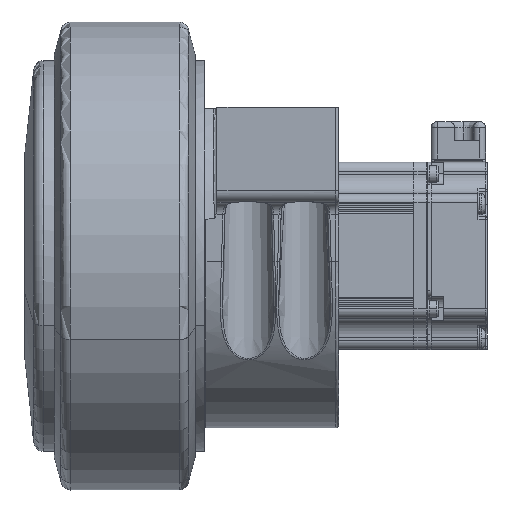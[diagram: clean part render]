
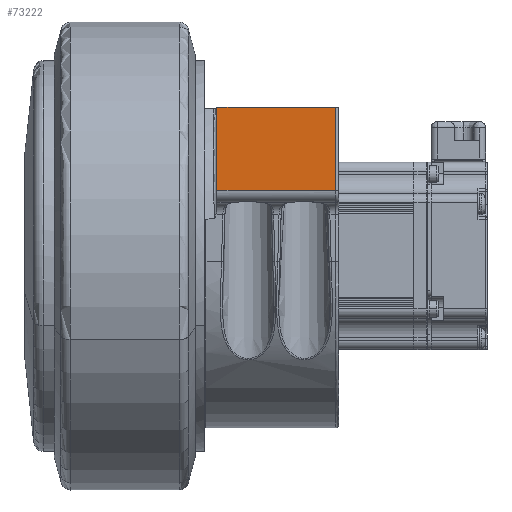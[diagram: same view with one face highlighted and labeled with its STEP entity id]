
A CAD part, top view. The second image highlights one B-rep face of the part: STEP entity #73222.
In plain terms, the highlighted planar face has unit normal (0, -0.026, 1).
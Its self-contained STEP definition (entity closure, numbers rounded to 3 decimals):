
#2653 = ORIENTED_EDGE ( 'NONE', *, *, #73305, .F. ) ;
#3748 = CARTESIAN_POINT ( 'NONE',  ( 31.662, 46.348, 241.571 ) ) ;
#5579 = CARTESIAN_POINT ( 'NONE',  ( 6.329, 46.348, 241.571 ) ) ;
#6153 = EDGE_CURVE ( 'NONE', #34607, #58737, #54318, .T. ) ;
#9213 = CARTESIAN_POINT ( 'NONE',  ( 6.329, 19.714, 240.874 ) ) ;
#12929 = EDGE_LOOP ( 'NONE', ( #26608, #2653, #72642, #51949 ) ) ;
#13268 = CARTESIAN_POINT ( 'NONE',  ( 32.662, 19.714, 240.874 ) ) ;
#14331 = B_SPLINE_CURVE_WITH_KNOTS ( 'NONE', 3,
 ( #3748, #22245, #53706, #28709 ),
 .UNSPECIFIED., .F., .F.,
 ( 4, 4 ),
 ( 0., 1. ),
 .UNSPECIFIED. ) ;
#14449 = CARTESIAN_POINT ( 'NONE',  ( -6.338, 19.714, 240.874 ) ) ;
#15605 = CARTESIAN_POINT ( 'NONE',  ( -6.338, 46.348, 241.571 ) ) ;
#18146 = CARTESIAN_POINT ( 'NONE',  ( 31.662, 19.714, 240.874 ) ) ;
#22245 = CARTESIAN_POINT ( 'NONE',  ( 31.662, 37.47, 241.339 ) ) ;
#26608 = ORIENTED_EDGE ( 'NONE', *, *, #48720, .F. ) ;
#28709 = CARTESIAN_POINT ( 'NONE',  ( 31.662, 19.714, 240.874 ) ) ;
#28961 = B_SPLINE_CURVE_WITH_KNOTS ( 'NONE', 3,
 ( #62069, #43083, #5579, #31006 ),
 .UNSPECIFIED., .F., .F.,
 ( 4, 4 ),
 ( 0., 1. ),
 .UNSPECIFIED. ) ;
#31006 = CARTESIAN_POINT ( 'NONE',  ( -6.338, 46.348, 241.571 ) ) ;
#34607 = VERTEX_POINT ( 'NONE', #15605 ) ;
#34888 = VERTEX_POINT ( 'NONE', #45367 ) ;
#37861 = DIRECTION ( 'NONE',  ( 0., 0.026, -1. ) ) ;
#43083 = CARTESIAN_POINT ( 'NONE',  ( 18.996, 46.348, 241.571 ) ) ;
#43941 = FACE_OUTER_BOUND ( 'NONE', #12929, .T. ) ;
#45367 = CARTESIAN_POINT ( 'NONE',  ( 31.662, 46.348, 241.571 ) ) ;
#45819 = EDGE_CURVE ( 'NONE', #34888, #34607, #28961, .T. ) ;
#46326 = CARTESIAN_POINT ( 'NONE',  ( 31.662, 19.714, 240.874 ) ) ;
#48720 = EDGE_CURVE ( 'NONE', #79306, #58737, #58146, .T. ) ;
#51949 = ORIENTED_EDGE ( 'NONE', *, *, #6153, .T. ) ;
#52101 = DIRECTION ( 'NONE',  ( -1., 0., 0. ) ) ;
#52119 = CARTESIAN_POINT ( 'NONE',  ( -6.338, 37.47, 241.339 ) ) ;
#52962 = CARTESIAN_POINT ( 'NONE',  ( -6.338, 46.348, 241.571 ) ) ;
#53549 = CARTESIAN_POINT ( 'NONE',  ( -6.338, 19.714, 240.874 ) ) ;
#53706 = CARTESIAN_POINT ( 'NONE',  ( 31.662, 28.592, 241.106 ) ) ;
#53728 = CARTESIAN_POINT ( 'NONE',  ( -6.338, 28.592, 241.106 ) ) ;
#54318 = B_SPLINE_CURVE_WITH_KNOTS ( 'NONE', 3,
 ( #52962, #52119, #53728, #70711 ),
 .UNSPECIFIED., .F., .F.,
 ( 4, 4 ),
 ( 0., 1. ),
 .UNSPECIFIED. ) ;
#57231 = CARTESIAN_POINT ( 'NONE',  ( 18.996, 19.714, 240.874 ) ) ;
#58146 = B_SPLINE_CURVE_WITH_KNOTS ( 'NONE', 3,
 ( #46326, #57231, #9213, #14449 ),
 .UNSPECIFIED., .F., .F.,
 ( 4, 4 ),
 ( 0., 1. ),
 .UNSPECIFIED. ) ;
#58737 = VERTEX_POINT ( 'NONE', #53549 ) ;
#62069 = CARTESIAN_POINT ( 'NONE',  ( 31.662, 46.348, 241.571 ) ) ;
#68543 = PLANE ( 'NONE',  #69276 ) ;
#69276 = AXIS2_PLACEMENT_3D ( 'NONE', #13268, #37861, #52101 ) ;
#70711 = CARTESIAN_POINT ( 'NONE',  ( -6.338, 19.714, 240.874 ) ) ;
#72642 = ORIENTED_EDGE ( 'NONE', *, *, #45819, .T. ) ;
#73222 = ADVANCED_FACE ( 'NONE', ( #43941 ), #68543, .F. ) ;
#73305 = EDGE_CURVE ( 'NONE', #34888, #79306, #14331, .T. ) ;
#79306 = VERTEX_POINT ( 'NONE', #18146 ) ;
